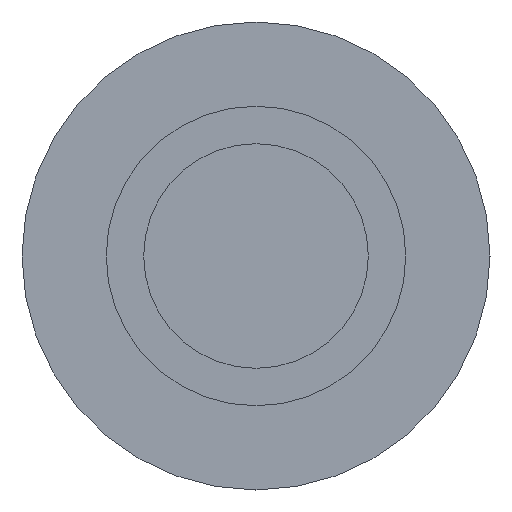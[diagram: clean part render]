
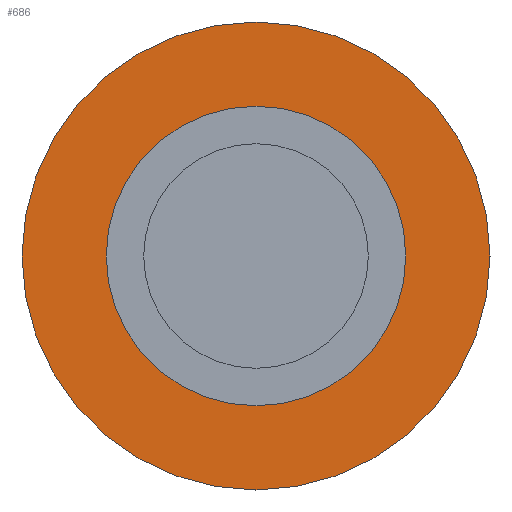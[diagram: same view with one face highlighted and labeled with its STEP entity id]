
A CAD part, left-side view. The second image highlights one B-rep face of the part: STEP entity #686.
In plain terms, the highlighted planar face has unit normal (-1, 0, 0).
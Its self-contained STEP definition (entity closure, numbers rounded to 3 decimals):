
#56 = VERTEX_POINT ( 'NONE', #670 ) ;
#116 = FACE_BOUND ( 'NONE', #466, .T. ) ;
#121 = EDGE_CURVE ( 'NONE', #583, #56, #1300, .T. ) ;
#252 = DIRECTION ( 'NONE',  ( 0., 0., -1. ) ) ;
#280 = VERTEX_POINT ( 'NONE', #504 ) ;
#289 = ORIENTED_EDGE ( 'NONE', *, *, #461, .F. ) ;
#292 = AXIS2_PLACEMENT_3D ( 'NONE', #566, #1030, #337 ) ;
#337 = DIRECTION ( 'NONE',  ( 0., 0., 1. ) ) ;
#373 = ORIENTED_EDGE ( 'NONE', *, *, #436, .T. ) ;
#381 = CARTESIAN_POINT ( 'NONE',  ( -62.5, 0., -4. ) ) ;
#406 = VERTEX_POINT ( 'NONE', #1415 ) ;
#412 = AXIS2_PLACEMENT_3D ( 'NONE', #863, #1084, #1306 ) ;
#416 = EDGE_CURVE ( 'NONE', #406, #280, #890, .T. ) ;
#436 = EDGE_CURVE ( 'NONE', #280, #406, #770, .T. ) ;
#461 = EDGE_CURVE ( 'NONE', #56, #583, #683, .T. ) ;
#463 = CARTESIAN_POINT ( 'NONE',  ( -62.5, 0., 0. ) ) ;
#466 = EDGE_LOOP ( 'NONE', ( #289, #1173 ) ) ;
#504 = CARTESIAN_POINT ( 'NONE',  ( -62.5, 0., 6.25 ) ) ;
#564 = PLANE ( 'NONE',  #1069 ) ;
#566 = CARTESIAN_POINT ( 'NONE',  ( -62.5, 0., 0. ) ) ;
#570 = CARTESIAN_POINT ( 'NONE',  ( -62.5, 6.25, 0. ) ) ;
#583 = VERTEX_POINT ( 'NONE', #381 ) ;
#670 = CARTESIAN_POINT ( 'NONE',  ( -62.5, 0., 4. ) ) ;
#683 = CIRCLE ( 'NONE', #910, 4. ) ;
#686 = ADVANCED_FACE ( 'NONE', ( #116, #1439 ), #564, .F. ) ;
#701 = AXIS2_PLACEMENT_3D ( 'NONE', #1015, #1230, #1218 ) ;
#727 = EDGE_LOOP ( 'NONE', ( #373, #1451 ) ) ;
#770 = CIRCLE ( 'NONE', #701, 6.25 ) ;
#813 = DIRECTION ( 'NONE',  ( 1., 0., 0. ) ) ;
#863 = CARTESIAN_POINT ( 'NONE',  ( -62.5, 0., 0. ) ) ;
#890 = CIRCLE ( 'NONE', #412, 6.25 ) ;
#910 = AXIS2_PLACEMENT_3D ( 'NONE', #463, #1122, #1245 ) ;
#1015 = CARTESIAN_POINT ( 'NONE',  ( -62.5, 0., 0. ) ) ;
#1030 = DIRECTION ( 'NONE',  ( -1., 0., 0. ) ) ;
#1069 = AXIS2_PLACEMENT_3D ( 'NONE', #570, #813, #252 ) ;
#1084 = DIRECTION ( 'NONE',  ( -1., 0., 0. ) ) ;
#1122 = DIRECTION ( 'NONE',  ( -1., 0., 0. ) ) ;
#1173 = ORIENTED_EDGE ( 'NONE', *, *, #121, .F. ) ;
#1218 = DIRECTION ( 'NONE',  ( 0., 0., 1. ) ) ;
#1230 = DIRECTION ( 'NONE',  ( -1., 0., 0. ) ) ;
#1245 = DIRECTION ( 'NONE',  ( 0., 0., 1. ) ) ;
#1300 = CIRCLE ( 'NONE', #292, 4. ) ;
#1306 = DIRECTION ( 'NONE',  ( 0., 0., 1. ) ) ;
#1415 = CARTESIAN_POINT ( 'NONE',  ( -62.5, 0., -6.25 ) ) ;
#1439 = FACE_OUTER_BOUND ( 'NONE', #727, .T. ) ;
#1451 = ORIENTED_EDGE ( 'NONE', *, *, #416, .T. ) ;
